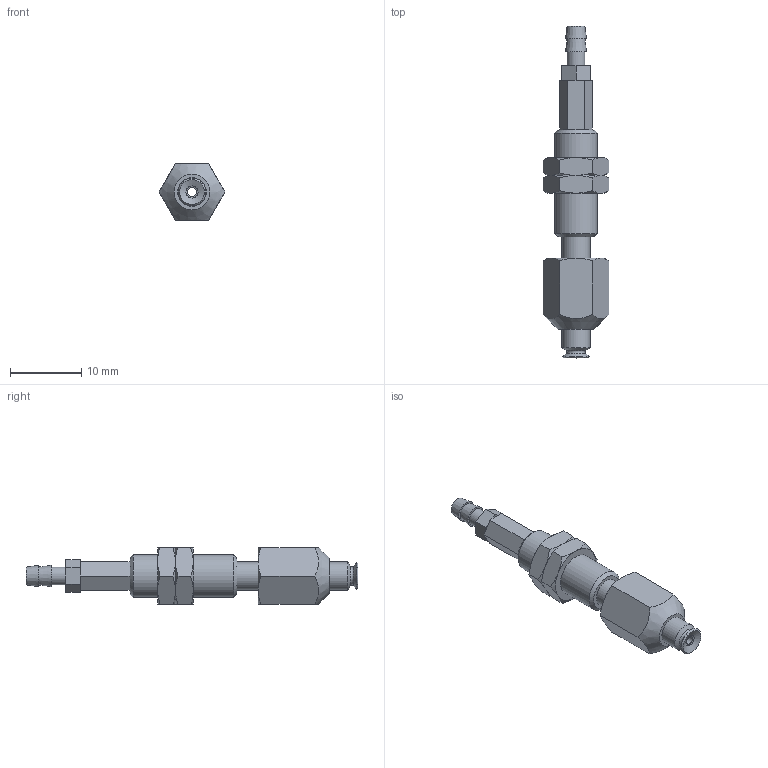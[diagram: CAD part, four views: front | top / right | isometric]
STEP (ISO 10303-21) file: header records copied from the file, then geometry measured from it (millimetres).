
FILE_DESCRIPTION(('STEP AP203'),'1');
FILE_NAME('-T.stp','2025-08-27T05:28:01',(' '),(' '),'Spatial InterOp 3D',' ',' ');
FILE_SCHEMA(('CONFIG_CONTROL_DESIGN'));
Length unit declared in the file: millimetre
Products named in the file (7): BNABPFTS-3.5A-3-※-T; ADAPTER; NAPFTS-2A-3-MBODY; Nut-3.5A-3-s; NAPFTS-3.5A-3-FBODY; BPFG-3.5A-※; T (2)
Assembly tree (7 placements, depth 2):
  BNABPFTS-3.5A-3-※-T
    ADAPTER
    NAPFTS-2A-3-MBODY
    Nut-3.5A-3-s  x2
    NAPFTS-3.5A-3-FBODY
    BPFG-3.5A-※
    T (2)
Bounding box: 9.24 x 46.6 x 8 mm (x, y, z)
Volume: 1289.9 mm3; surface area: 1968.5 mm2
Topology: 7 solids, 7 shells, 128 faces, 266 edges, 160 vertices
Faces by surface type: plane 58, cone 45, cylinder 17, torus 7, bspline 1
Full cylindrical faces by diameter (mm): 1.2 x4, 2 x2, 2.459 x1, 2.5 x1, 3 x3, 4 x3, 5.188 x2, 6 x1
Entity records: 3081 total; most frequent: CARTESIAN_POINT 702, DIRECTION 432, ORIENTED_EDGE 346, AXIS2_PLACEMENT_3D 189, EDGE_CURVE 173, EDGE_LOOP 162, FACE_OUTER_BOUND 129, VERTEX_POINT 125
